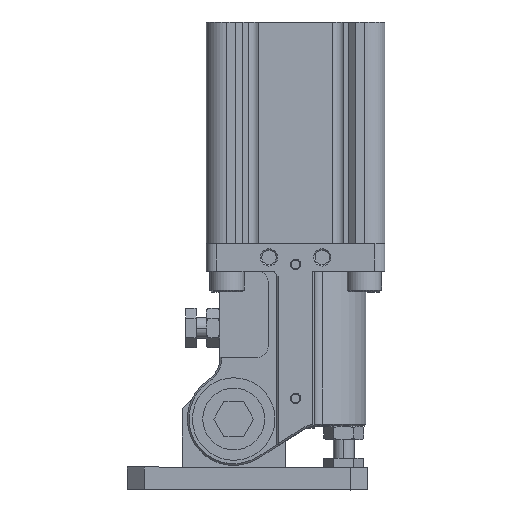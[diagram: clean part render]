
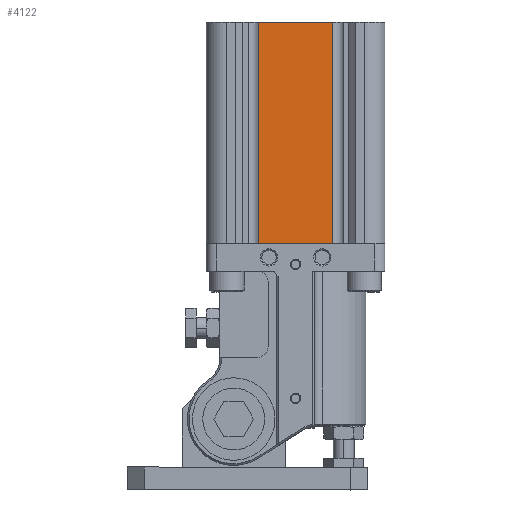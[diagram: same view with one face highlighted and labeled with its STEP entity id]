
A CAD part, top view. The second image highlights one B-rep face of the part: STEP entity #4122.
In plain terms, the highlighted planar face has unit normal (0, 0, 1).
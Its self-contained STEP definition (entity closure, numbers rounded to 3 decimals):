
#431=FACE_OUTER_BOUND('',#5723,.T.);
#1429=LINE('',#25693,#2577);
#1511=LINE('',#25906,#2659);
#1530=LINE('',#25972,#2678);
#1531=LINE('',#25973,#2679);
#2577=VECTOR('',#17181,1.);
#2659=VECTOR('',#17339,1.);
#2678=VECTOR('',#17408,1.);
#2679=VECTOR('',#17409,1.);
#4122=ADVANCED_FACE('',(#431),#5038,.T.);
#5038=PLANE('',#15447);
#5723=EDGE_LOOP('',(#7078,#7079,#7080,#7081));
#7078=ORIENTED_EDGE('',*,*,#12584,.T.);
#7079=ORIENTED_EDGE('',*,*,#12617,.T.);
#7080=ORIENTED_EDGE('',*,*,#12477,.F.);
#7081=ORIENTED_EDGE('',*,*,#12618,.F.);
#11078=VERTEX_POINT('',#25692);
#11079=VERTEX_POINT('',#25694);
#11171=VERTEX_POINT('',#25905);
#11172=VERTEX_POINT('',#25907);
#12477=EDGE_CURVE('',#11078,#11079,#1429,.T.);
#12584=EDGE_CURVE('',#11172,#11171,#1511,.T.);
#12617=EDGE_CURVE('',#11171,#11079,#1530,.T.);
#12618=EDGE_CURVE('',#11172,#11078,#1531,.T.);
#15447=AXIS2_PLACEMENT_3D('',#25974,#17410,#17411);
#17181=DIRECTION('',(1.,0.,0.));
#17339=DIRECTION('',(1.,0.,0.));
#17408=DIRECTION('',(0.,1.,0.));
#17409=DIRECTION('',(0.,1.,0.));
#17410=DIRECTION('',(0.,0.,1.));
#17411=DIRECTION('',(-1.,0.,0.));
#25692=CARTESIAN_POINT('',(215.2,64.5,-2.2));
#25693=CARTESIAN_POINT('',(215.2,64.5,-2.2));
#25694=CARTESIAN_POINT('',(236.8,64.5,-2.2));
#25905=CARTESIAN_POINT('',(236.8,0.,-2.2));
#25906=CARTESIAN_POINT('',(215.2,0.,-2.2));
#25907=CARTESIAN_POINT('',(215.2,0.,-2.2));
#25972=CARTESIAN_POINT('',(236.8,0.,-2.2));
#25973=CARTESIAN_POINT('',(215.2,0.,-2.2));
#25974=CARTESIAN_POINT('',(210.69,64.5,-2.2));
